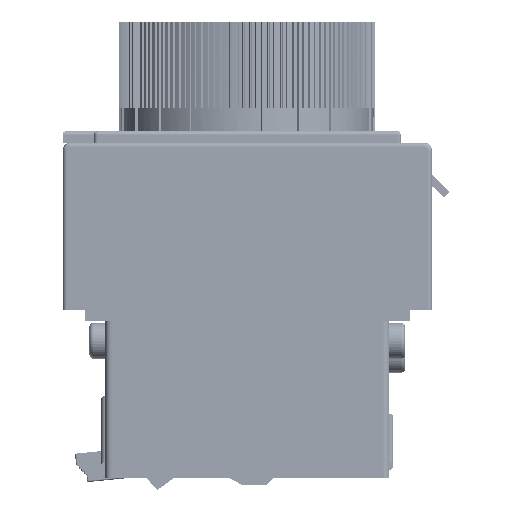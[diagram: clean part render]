
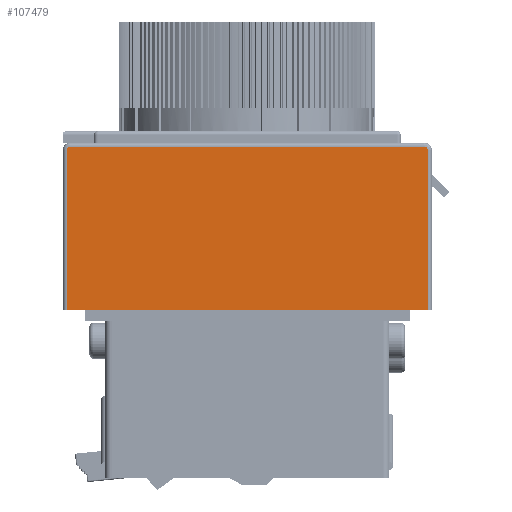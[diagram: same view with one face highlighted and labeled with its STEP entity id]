
A CAD part, left-side view. The second image highlights one B-rep face of the part: STEP entity #107479.
In plain terms, the highlighted planar face has unit normal (-1, 0, 0) as drawn and (0, 0, 1) by its records, which use the part's own axes.
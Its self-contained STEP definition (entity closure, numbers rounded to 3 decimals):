
#3917 = EDGE_CURVE ( 'NONE', #128272, #60896, #156811, .T. ) ;
#3999 = CARTESIAN_POINT ( 'NONE',  ( -23.75, 0., 22.25 ) ) ;
#5486 = EDGE_LOOP ( 'NONE', ( #102339, #132486, #18768, #58346, #103728, #109823 ) ) ;
#12006 = CARTESIAN_POINT ( 'NONE',  ( 22.75, -21., 22.25 ) ) ;
#18768 = ORIENTED_EDGE ( 'NONE', *, *, #135066, .F. ) ;
#20089 = LINE ( 'NONE', #57976, #141158 ) ;
#32501 = PLANE ( 'NONE',  #35353 ) ;
#35353 = AXIS2_PLACEMENT_3D ( 'NONE', #3999, #133309, #159289 ) ;
#35808 = EDGE_CURVE ( 'NONE', #102110, #161602, #145036, .T. ) ;
#36913 = LINE ( 'NONE', #115843, #112582 ) ;
#38279 = DIRECTION ( 'NONE',  ( 1., 0., 0. ) ) ;
#39215 = CARTESIAN_POINT ( 'NONE',  ( 23.25, 0., 22.25 ) ) ;
#41819 = VERTEX_POINT ( 'NONE', #163709 ) ;
#56806 = AXIS2_PLACEMENT_3D ( 'NONE', #134785, #110408, #122167 ) ;
#57976 = CARTESIAN_POINT ( 'NONE',  ( 22.75, -21., 22.25 ) ) ;
#58346 = ORIENTED_EDGE ( 'NONE', *, *, #61320, .F. ) ;
#60896 = VERTEX_POINT ( 'NONE', #161372 ) ;
#61320 = EDGE_CURVE ( 'NONE', #161602, #41819, #20089, .T. ) ;
#65041 = DIRECTION ( 'NONE',  ( 1., 0., 0. ) ) ;
#67072 = CARTESIAN_POINT ( 'NONE',  ( -23.25, -20.5, 22.25 ) ) ;
#78454 = CARTESIAN_POINT ( 'NONE',  ( 22.75, -20.5, 22.25 ) ) ;
#81065 = VERTEX_POINT ( 'NONE', #39215 ) ;
#82174 = VECTOR ( 'NONE', #144238, 1000. ) ;
#87849 = CARTESIAN_POINT ( 'NONE',  ( -23.25, 0., 22.25 ) ) ;
#100726 = DIRECTION ( 'NONE',  ( 0., -1., 0. ) ) ;
#102110 = VERTEX_POINT ( 'NONE', #162854 ) ;
#102339 = ORIENTED_EDGE ( 'NONE', *, *, #164741, .F. ) ;
#103728 = ORIENTED_EDGE ( 'NONE', *, *, #35808, .F. ) ;
#105047 = EDGE_CURVE ( 'NONE', #81065, #102110, #36913, .T. ) ;
#107479 = ADVANCED_FACE ( 'NONE', ( #160113 ), #32501, .T. ) ;
#109823 = ORIENTED_EDGE ( 'NONE', *, *, #105047, .F. ) ;
#110408 = DIRECTION ( 'NONE',  ( 0., 0., -1. ) ) ;
#112582 = VECTOR ( 'NONE', #100726, 1000. ) ;
#113221 = CARTESIAN_POINT ( 'NONE',  ( -23.25, -20.5, 22.25 ) ) ;
#114725 = LINE ( 'NONE', #87849, #118160 ) ;
#115843 = CARTESIAN_POINT ( 'NONE',  ( 23.25, 0., 22.25 ) ) ;
#118160 = VECTOR ( 'NONE', #38279, 1000. ) ;
#122167 = DIRECTION ( 'NONE',  ( 0., -1., 0. ) ) ;
#128272 = VERTEX_POINT ( 'NONE', #113221 ) ;
#129159 = CIRCLE ( 'NONE', #56806, 0.5 ) ;
#132486 = ORIENTED_EDGE ( 'NONE', *, *, #3917, .F. ) ;
#133309 = DIRECTION ( 'NONE',  ( 0., 0., 1. ) ) ;
#134785 = CARTESIAN_POINT ( 'NONE',  ( -22.75, -20.5, 22.25 ) ) ;
#135066 = EDGE_CURVE ( 'NONE', #41819, #128272, #129159, .T. ) ;
#141158 = VECTOR ( 'NONE', #163695, 1000. ) ;
#144238 = DIRECTION ( 'NONE',  ( 0., 1., 0. ) ) ;
#145036 = CIRCLE ( 'NONE', #153056, 0.5 ) ;
#153056 = AXIS2_PLACEMENT_3D ( 'NONE', #78454, #165763, #65041 ) ;
#156811 = LINE ( 'NONE', #67072, #82174 ) ;
#159289 = DIRECTION ( 'NONE',  ( 1., 0., 0. ) ) ;
#160113 = FACE_OUTER_BOUND ( 'NONE', #5486, .T. ) ;
#161372 = CARTESIAN_POINT ( 'NONE',  ( -23.25, 0., 22.25 ) ) ;
#161602 = VERTEX_POINT ( 'NONE', #12006 ) ;
#162854 = CARTESIAN_POINT ( 'NONE',  ( 23.25, -20.5, 22.25 ) ) ;
#163695 = DIRECTION ( 'NONE',  ( -1., 0., 0. ) ) ;
#163709 = CARTESIAN_POINT ( 'NONE',  ( -22.75, -21., 22.25 ) ) ;
#164741 = EDGE_CURVE ( 'NONE', #60896, #81065, #114725, .T. ) ;
#165763 = DIRECTION ( 'NONE',  ( 0., 0., -1. ) ) ;
